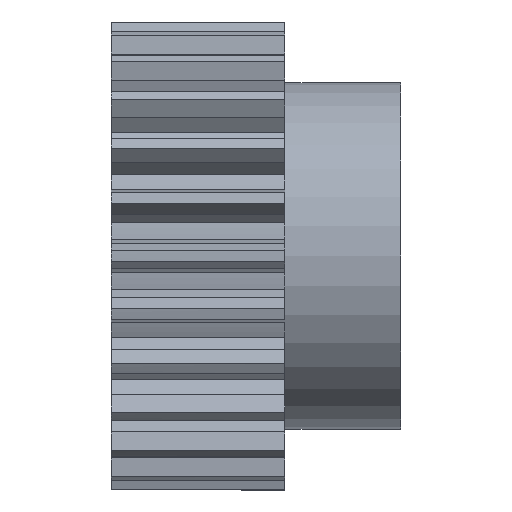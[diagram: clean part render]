
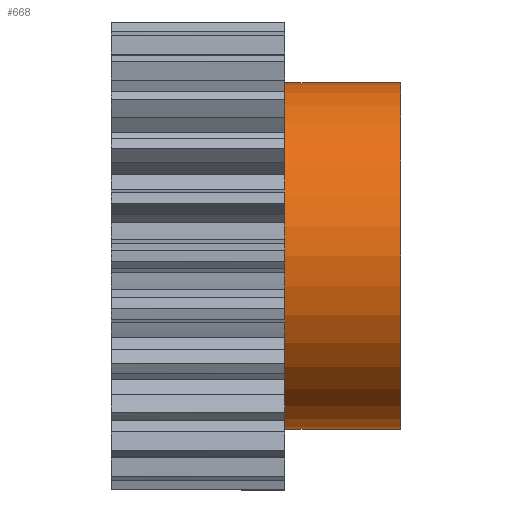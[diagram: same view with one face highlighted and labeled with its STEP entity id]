
A CAD part, front view. The second image highlights one B-rep face of the part: STEP entity #668.
In plain terms, the highlighted cylindrical face has radius 30 mm (diameter 60 mm), a partial arc.
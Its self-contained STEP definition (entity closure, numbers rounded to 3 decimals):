
#325 = VERTEX_POINT ( 'NONE', #2135 ) ;
#663 = ORIENTED_EDGE ( 'NONE', *, *, #958, .F. ) ;
#668 = ADVANCED_FACE ( 'NONE', ( #2688 ), #2730, .T. ) ;
#674 = ORIENTED_EDGE ( 'NONE', *, *, #5337, .T. ) ;
#676 = ORIENTED_EDGE ( 'NONE', *, *, #881, .T. ) ;
#678 = EDGE_LOOP ( 'NONE', ( #663, #674, #685, #676 ) ) ;
#685 = ORIENTED_EDGE ( 'NONE', *, *, #1051, .T. ) ;
#881 = EDGE_CURVE ( 'NONE', #325, #956, #3005, .T. ) ;
#948 = VERTEX_POINT ( 'NONE', #3165 ) ;
#956 = VERTEX_POINT ( 'NONE', #3146 ) ;
#957 = VERTEX_POINT ( 'NONE', #3148 ) ;
#958 = EDGE_CURVE ( 'NONE', #957, #956, #3147, .T. ) ;
#1051 = EDGE_CURVE ( 'NONE', #948, #325, #3355, .T. ) ;
#2135 = CARTESIAN_POINT ( 'NONE',  ( 15., 0., 30. ) ) ;
#2688 = FACE_OUTER_BOUND ( 'NONE', #678, .T. ) ;
#2720 = AXIS2_PLACEMENT_3D ( 'NONE', #2727, #2772, #2771 ) ;
#2727 = CARTESIAN_POINT ( 'NONE',  ( 15., 0., 0. ) ) ;
#2730 = CYLINDRICAL_SURFACE ( 'NONE', #2720, 30. ) ;
#2771 = DIRECTION ( 'NONE',  ( 0., 0., 1. ) ) ;
#2772 = DIRECTION ( 'NONE',  ( -1., 0., 0. ) ) ;
#3004 = CARTESIAN_POINT ( 'NONE',  ( 15., 0., 0. ) ) ;
#3005 = CIRCLE ( 'NONE', #3010, 30. ) ;
#3010 = AXIS2_PLACEMENT_3D ( 'NONE', #3004, #3047, #3046 ) ;
#3046 = DIRECTION ( 'NONE',  ( 0., 0., 1. ) ) ;
#3047 = DIRECTION ( 'NONE',  ( 1., 0., 0. ) ) ;
#3142 = DIRECTION ( 'NONE',  ( -1., 0., 0. ) ) ;
#3143 = VECTOR ( 'NONE', #3142, 1000. ) ;
#3144 = CARTESIAN_POINT ( 'NONE',  ( 15., 0., -30. ) ) ;
#3146 = CARTESIAN_POINT ( 'NONE',  ( 15., 0., -30. ) ) ;
#3147 = LINE ( 'NONE', #3144, #3143 ) ;
#3148 = CARTESIAN_POINT ( 'NONE',  ( 35., 0., -30. ) ) ;
#3165 = CARTESIAN_POINT ( 'NONE',  ( 35., 0., 30. ) ) ;
#3349 = DIRECTION ( 'NONE',  ( -1., 0., 0. ) ) ;
#3350 = VECTOR ( 'NONE', #3349, 1000. ) ;
#3351 = CARTESIAN_POINT ( 'NONE',  ( 15., 0., 30. ) ) ;
#3355 = LINE ( 'NONE', #3351, #3350 ) ;
#4872 = DIRECTION ( 'NONE',  ( 0., 0., 1. ) ) ;
#4873 = DIRECTION ( 'NONE',  ( -1., 0., 0. ) ) ;
#4874 = CARTESIAN_POINT ( 'NONE',  ( 35., 0., 0. ) ) ;
#4875 = AXIS2_PLACEMENT_3D ( 'NONE', #4874, #4873, #4872 ) ;
#4881 = CIRCLE ( 'NONE', #4875, 30. ) ;
#5337 = EDGE_CURVE ( 'NONE', #957, #948, #4881, .T. ) ;
